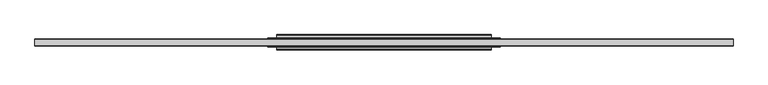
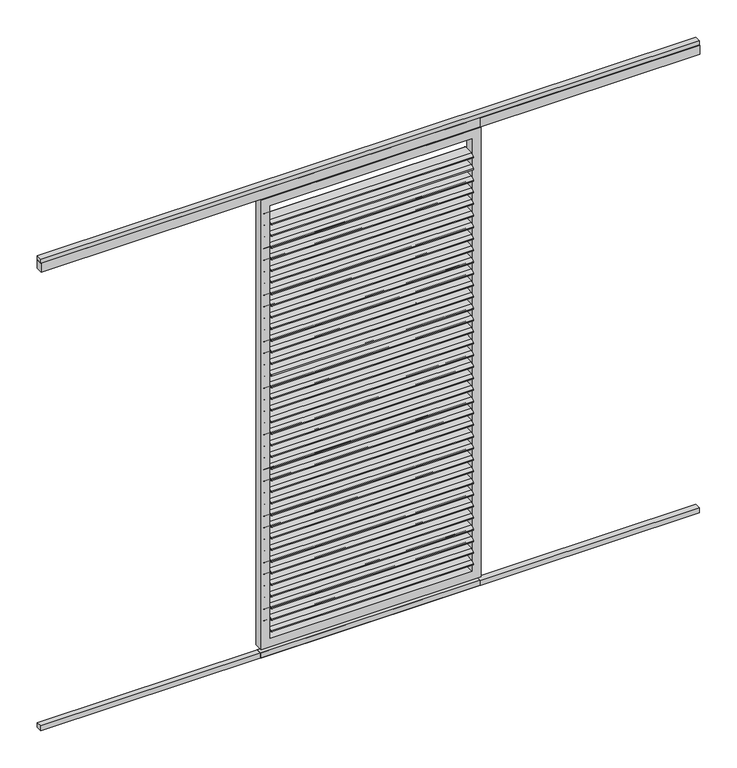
"""IFC4 building model written with IfcOpenShell, lengths in millimetres: proxy geometry, Renson_Algarve_Loggia_Paro_Privacy_Wood : Renson_Algarve_Loggia_Paro_Privacy_Wood."""

from ifc_helpers import new_model, si_unit, point, frame, frame_2d, origin, origin_with_axes, place, context, project, spatial, polyline, circle_curve, trimmed, segment, composite_curve, outline, extrude, source, transform, mapped, element, save


def generic_models_19c23343(model_context):
    return source(origin(), model_context, "Body", "SweptSolid", [
        extrude(outline(composite_curve([segment(trimmed(circle_curve(frame_2d((30.8660408, 2094.5594695)), 3.0), [point((30.8136836, 2097.5590126))], [point((32.5436195, 2092.0723568))], False, "CARTESIAN"), True, "CONTINUOUS"), segment(polyline([(32.5436195, 2092.0723568), (17.3218392, 2081.8051364)]), True, "CONTINUOUS"), segment(trimmed(circle_curve(frame_2d((15.6442605, 2084.2922491)), 3.0), [point((17.3218392, 2081.8051364))], [point((15.6966177, 2081.292706))], False, "CARTESIAN"), True, "CONTINUOUS"), segment(polyline([(15.6966177, 2081.292706), (-28.3625539, 2080.5236503)]), True, "CONTINUOUS"), segment(trimmed(circle_curve(frame_2d((-28.4149111, 2083.5231934)), 3.0), [point((-28.3625539, 2080.5236503))], [point((-30.0924898, 2086.0103061))], False, "CARTESIAN"), True, "CONTINUOUS"), segment(polyline([(-30.0924898, 2086.0103061), (-14.1339931, 2096.774448), (30.8136836, 2097.5590126)]), True, "CONTINUOUS")], self_intersect=False)), frame((-460.0, 0.0, 0.0), z_axis=(1.0, 0.0, 0.0), x_axis=(0.0, 1.0, 0.0)), (0.0, 0.0, 1.0), 920.0),
        extrude(outline(composite_curve([segment(trimmed(circle_curve(frame_2d((30.8660408, 2038.5874713)), 3.0), [point((30.8136836, 2041.5870144))], [point((32.5436195, 2036.1003586))], False, "CARTESIAN"), True, "CONTINUOUS"), segment(polyline([(32.5436195, 2036.1003586), (17.3218392, 2025.8331381)]), True, "CONTINUOUS"), segment(trimmed(circle_curve(frame_2d((15.6442605, 2028.3202508)), 3.0), [point((17.3218392, 2025.8331381))], [point((15.6966177, 2025.3207077))], False, "CARTESIAN"), True, "CONTINUOUS"), segment(polyline([(15.6966177, 2025.3207077), (-28.3625539, 2024.551652)]), True, "CONTINUOUS"), segment(trimmed(circle_curve(frame_2d((-28.4149111, 2027.5511951)), 3.0), [point((-28.3625539, 2024.551652))], [point((-30.0924898, 2030.0383078))], False, "CARTESIAN"), True, "CONTINUOUS"), segment(polyline([(-30.0924898, 2030.0383078), (-14.1339931, 2040.8024497), (30.8136836, 2041.5870144)]), True, "CONTINUOUS")], self_intersect=False)), frame((-460.0, 0.0, 0.0), z_axis=(1.0, 0.0, 0.0), x_axis=(0.0, 1.0, 0.0)), (0.0, 0.0, 1.0), 920.0),
        extrude(outline(composite_curve([segment(trimmed(circle_curve(frame_2d((30.8660408, 1982.615473)), 3.0), [point((30.8136836, 1985.6150161))], [point((32.5436195, 1980.1283603))], False, "CARTESIAN"), True, "CONTINUOUS"), segment(polyline([(32.5436195, 1980.1283603), (17.3218392, 1969.8611398)]), True, "CONTINUOUS"), segment(trimmed(circle_curve(frame_2d((15.6442605, 1972.3482526)), 3.0), [point((17.3218392, 1969.8611398))], [point((15.6966177, 1969.3487095))], False, "CARTESIAN"), True, "CONTINUOUS"), segment(polyline([(15.6966177, 1969.3487095), (-28.3625539, 1968.5796538)]), True, "CONTINUOUS"), segment(trimmed(circle_curve(frame_2d((-28.4149111, 1971.5791969)), 3.0), [point((-28.3625539, 1968.5796538))], [point((-30.0924898, 1974.0663096))], False, "CARTESIAN"), True, "CONTINUOUS"), segment(polyline([(-30.0924898, 1974.0663096), (-14.1339931, 1984.8304515), (30.8136836, 1985.6150161)]), True, "CONTINUOUS")], self_intersect=False)), frame((-460.0, 0.0, 0.0), z_axis=(1.0, 0.0, 0.0), x_axis=(0.0, 1.0, 0.0)), (0.0, 0.0, 1.0), 920.0),
        extrude(outline(composite_curve([segment(trimmed(circle_curve(frame_2d((30.8660408, 1926.6434747)), 3.0), [point((30.8136836, 1929.6430178))], [point((32.5436195, 1924.156362))], False, "CARTESIAN"), True, "CONTINUOUS"), segment(polyline([(32.5436195, 1924.156362), (17.3218392, 1913.8891416)]), True, "CONTINUOUS"), segment(trimmed(circle_curve(frame_2d((15.6442605, 1916.3762543)), 3.0), [point((17.3218392, 1913.8891416))], [point((15.6966177, 1913.3767112))], False, "CARTESIAN"), True, "CONTINUOUS"), segment(polyline([(15.6966177, 1913.3767112), (-28.3625539, 1912.6076555)]), True, "CONTINUOUS"), segment(trimmed(circle_curve(frame_2d((-28.4149111, 1915.6071986)), 3.0), [point((-28.3625539, 1912.6076555))], [point((-30.0924898, 1918.0943113))], False, "CARTESIAN"), True, "CONTINUOUS"), segment(polyline([(-30.0924898, 1918.0943113), (-14.1339931, 1928.8584532), (30.8136836, 1929.6430178)]), True, "CONTINUOUS")], self_intersect=False)), frame((-460.0, 0.0, 0.0), z_axis=(1.0, 0.0, 0.0), x_axis=(0.0, 1.0, 0.0)), (0.0, 0.0, 1.0), 920.0),
        extrude(outline(composite_curve([segment(trimmed(circle_curve(frame_2d((30.8660408, 1870.6714765)), 3.0), [point((30.8136836, 1873.6710196))], [point((32.5436195, 1868.1843638))], False, "CARTESIAN"), True, "CONTINUOUS"), segment(polyline([(32.5436195, 1868.1843638), (17.3218392, 1857.9171433)]), True, "CONTINUOUS"), segment(trimmed(circle_curve(frame_2d((15.6442605, 1860.404256)), 3.0), [point((17.3218392, 1857.9171433))], [point((15.6966177, 1857.404713))], False, "CARTESIAN"), True, "CONTINUOUS"), segment(polyline([(15.6966177, 1857.404713), (-28.3625539, 1856.6356573)]), True, "CONTINUOUS"), segment(trimmed(circle_curve(frame_2d((-28.4149111, 1859.6352003)), 3.0), [point((-28.3625539, 1856.6356573))], [point((-30.0924898, 1862.1223131))], False, "CARTESIAN"), True, "CONTINUOUS"), segment(polyline([(-30.0924898, 1862.1223131), (-14.1339931, 1872.886455), (30.8136836, 1873.6710196)]), True, "CONTINUOUS")], self_intersect=False)), frame((-460.0, 0.0, 0.0), z_axis=(1.0, 0.0, 0.0), x_axis=(0.0, 1.0, 0.0)), (0.0, 0.0, 1.0), 920.0),
        extrude(outline(composite_curve([segment(trimmed(circle_curve(frame_2d((30.8660408, 1814.6994782)), 3.0), [point((30.8136836, 1817.6990213))], [point((32.5436195, 1812.2123655))], False, "CARTESIAN"), True, "CONTINUOUS"), segment(polyline([(32.5436195, 1812.2123655), (17.3218392, 1801.9451451)]), True, "CONTINUOUS"), segment(trimmed(circle_curve(frame_2d((15.6442605, 1804.4322578)), 3.0), [point((17.3218392, 1801.9451451))], [point((15.6966177, 1801.4327147))], False, "CARTESIAN"), True, "CONTINUOUS"), segment(polyline([(15.6966177, 1801.4327147), (-28.3625539, 1800.663659)]), True, "CONTINUOUS"), segment(trimmed(circle_curve(frame_2d((-28.4149111, 1803.6632021)), 3.0), [point((-28.3625539, 1800.663659))], [point((-30.0924898, 1806.1503148))], False, "CARTESIAN"), True, "CONTINUOUS"), segment(polyline([(-30.0924898, 1806.1503148), (-14.1339931, 1816.9144567), (30.8136836, 1817.6990213)]), True, "CONTINUOUS")], self_intersect=False)), frame((-460.0, 0.0, 0.0), z_axis=(1.0, 0.0, 0.0), x_axis=(0.0, 1.0, 0.0)), (0.0, 0.0, 1.0), 920.0),
        extrude(outline(composite_curve([segment(trimmed(circle_curve(frame_2d((30.8660408, 1758.72748)), 3.0), [point((30.8136836, 1761.727023))], [point((32.5436195, 1756.2403672))], False, "CARTESIAN"), True, "CONTINUOUS"), segment(polyline([(32.5436195, 1756.2403672), (17.3218392, 1745.9731468)]), True, "CONTINUOUS"), segment(trimmed(circle_curve(frame_2d((15.6442605, 1748.4602595)), 3.0), [point((17.3218392, 1745.9731468))], [point((15.6966177, 1745.4607164))], False, "CARTESIAN"), True, "CONTINUOUS"), segment(polyline([(15.6966177, 1745.4607164), (-28.3625539, 1744.6916607)]), True, "CONTINUOUS"), segment(trimmed(circle_curve(frame_2d((-28.4149111, 1747.6912038)), 3.0), [point((-28.3625539, 1744.6916607))], [point((-30.0924898, 1750.1783165))], False, "CARTESIAN"), True, "CONTINUOUS"), segment(polyline([(-30.0924898, 1750.1783165), (-14.1339931, 1760.9424584), (30.8136836, 1761.727023)]), True, "CONTINUOUS")], self_intersect=False)), frame((-460.0, 0.0, 0.0), z_axis=(1.0, 0.0, 0.0), x_axis=(0.0, 1.0, 0.0)), (0.0, 0.0, 1.0), 920.0),
        extrude(outline(composite_curve([segment(trimmed(circle_curve(frame_2d((30.8660408, 1702.7554817)), 3.0), [point((30.8136836, 1705.7550248))], [point((32.5436195, 1700.268369))], False, "CARTESIAN"), True, "CONTINUOUS"), segment(polyline([(32.5436195, 1700.268369), (17.3218392, 1690.0011485)]), True, "CONTINUOUS"), segment(trimmed(circle_curve(frame_2d((15.6442605, 1692.4882613)), 3.0), [point((17.3218392, 1690.0011485))], [point((15.6966177, 1689.4887182))], False, "CARTESIAN"), True, "CONTINUOUS"), segment(polyline([(15.6966177, 1689.4887182), (-28.3625539, 1688.7196625)]), True, "CONTINUOUS"), segment(trimmed(circle_curve(frame_2d((-28.4149111, 1691.7192056)), 3.0), [point((-28.3625539, 1688.7196625))], [point((-30.0924898, 1694.2063183))], False, "CARTESIAN"), True, "CONTINUOUS"), segment(polyline([(-30.0924898, 1694.2063183), (-14.1339931, 1704.9704602), (30.8136836, 1705.7550248)]), True, "CONTINUOUS")], self_intersect=False)), frame((-460.0, 0.0, 0.0), z_axis=(1.0, 0.0, 0.0), x_axis=(0.0, 1.0, 0.0)), (0.0, 0.0, 1.0), 920.0),
        extrude(outline(composite_curve([segment(trimmed(circle_curve(frame_2d((30.8660408, 1646.7834834)), 3.0), [point((30.8136836, 1649.7830265))], [point((32.5436195, 1644.2963707))], False, "CARTESIAN"), True, "CONTINUOUS"), segment(polyline([(32.5436195, 1644.2963707), (17.3218392, 1634.0291503)]), True, "CONTINUOUS"), segment(trimmed(circle_curve(frame_2d((15.6442605, 1636.516263)), 3.0), [point((17.3218392, 1634.0291503))], [point((15.6966177, 1633.5167199))], False, "CARTESIAN"), True, "CONTINUOUS"), segment(polyline([(15.6966177, 1633.5167199), (-28.3625539, 1632.7476642)]), True, "CONTINUOUS"), segment(trimmed(circle_curve(frame_2d((-28.4149111, 1635.7472073)), 3.0), [point((-28.3625539, 1632.7476642))], [point((-30.0924898, 1638.23432))], False, "CARTESIAN"), True, "CONTINUOUS"), segment(polyline([(-30.0924898, 1638.23432), (-14.1339931, 1648.9984619), (30.8136836, 1649.7830265)]), True, "CONTINUOUS")], self_intersect=False)), frame((-460.0, 0.0, 0.0), z_axis=(1.0, 0.0, 0.0), x_axis=(0.0, 1.0, 0.0)), (0.0, 0.0, 1.0), 920.0),
        extrude(outline(composite_curve([segment(trimmed(circle_curve(frame_2d((30.8660408, 1590.8114852)), 3.0), [point((30.8136836, 1593.8110283))], [point((32.5436195, 1588.3243725))], False, "CARTESIAN"), True, "CONTINUOUS"), segment(polyline([(32.5436195, 1588.3243725), (17.3218392, 1578.057152)]), True, "CONTINUOUS"), segment(trimmed(circle_curve(frame_2d((15.6442605, 1580.5442647)), 3.0), [point((17.3218392, 1578.057152))], [point((15.6966177, 1577.5447216))], False, "CARTESIAN"), True, "CONTINUOUS"), segment(polyline([(15.6966177, 1577.5447216), (-28.3625539, 1576.7756659)]), True, "CONTINUOUS"), segment(trimmed(circle_curve(frame_2d((-28.4149111, 1579.775209)), 3.0), [point((-28.3625539, 1576.7756659))], [point((-30.0924898, 1582.2623218))], False, "CARTESIAN"), True, "CONTINUOUS"), segment(polyline([(-30.0924898, 1582.2623218), (-14.1339931, 1593.0264636), (30.8136836, 1593.8110283)]), True, "CONTINUOUS")], self_intersect=False)), frame((-460.0, 0.0, 0.0), z_axis=(1.0, 0.0, 0.0), x_axis=(0.0, 1.0, 0.0)), (0.0, 0.0, 1.0), 920.0),
        extrude(outline(composite_curve([segment(trimmed(circle_curve(frame_2d((30.8660408, 1534.8394869)), 3.0), [point((30.8136836, 1537.83903))], [point((32.5436195, 1532.3523742))], False, "CARTESIAN"), True, "CONTINUOUS"), segment(polyline([(32.5436195, 1532.3523742), (17.3218392, 1522.0851538)]), True, "CONTINUOUS"), segment(trimmed(circle_curve(frame_2d((15.6442605, 1524.5722665)), 3.0), [point((17.3218392, 1522.0851538))], [point((15.6966177, 1521.5727234))], False, "CARTESIAN"), True, "CONTINUOUS"), segment(polyline([(15.6966177, 1521.5727234), (-28.3625539, 1520.8036677)]), True, "CONTINUOUS"), segment(trimmed(circle_curve(frame_2d((-28.4149111, 1523.8032108)), 3.0), [point((-28.3625539, 1520.8036677))], [point((-30.0924898, 1526.2903235))], False, "CARTESIAN"), True, "CONTINUOUS"), segment(polyline([(-30.0924898, 1526.2903235), (-14.1339931, 1537.0544654), (30.8136836, 1537.83903)]), True, "CONTINUOUS")], self_intersect=False)), frame((-460.0, 0.0, 0.0), z_axis=(1.0, 0.0, 0.0), x_axis=(0.0, 1.0, 0.0)), (0.0, 0.0, 1.0), 920.0),
        extrude(outline(composite_curve([segment(trimmed(circle_curve(frame_2d((30.8660408, 1478.8674887)), 3.0), [point((30.8136836, 1481.8670317))], [point((32.5436195, 1476.3803759))], False, "CARTESIAN"), True, "CONTINUOUS"), segment(polyline([(32.5436195, 1476.3803759), (17.3218392, 1466.1131555)]), True, "CONTINUOUS"), segment(trimmed(circle_curve(frame_2d((15.6442605, 1468.6002682)), 3.0), [point((17.3218392, 1466.1131555))], [point((15.6966177, 1465.6007251))], False, "CARTESIAN"), True, "CONTINUOUS"), segment(polyline([(15.6966177, 1465.6007251), (-28.3625539, 1464.8316694)]), True, "CONTINUOUS"), segment(trimmed(circle_curve(frame_2d((-28.4149111, 1467.8312125)), 3.0), [point((-28.3625539, 1464.8316694))], [point((-30.0924898, 1470.3183252))], False, "CARTESIAN"), True, "CONTINUOUS"), segment(polyline([(-30.0924898, 1470.3183252), (-14.1339931, 1481.0824671), (30.8136836, 1481.8670317)]), True, "CONTINUOUS")], self_intersect=False)), frame((-460.0, 0.0, 0.0), z_axis=(1.0, 0.0, 0.0), x_axis=(0.0, 1.0, 0.0)), (0.0, 0.0, 1.0), 920.0),
        extrude(outline(composite_curve([segment(trimmed(circle_curve(frame_2d((30.8660408, 1422.8954904)), 3.0), [point((30.8136836, 1425.8950335))], [point((32.5436195, 1420.4083777))], False, "CARTESIAN"), True, "CONTINUOUS"), segment(polyline([(32.5436195, 1420.4083777), (17.3218392, 1410.1411572)]), True, "CONTINUOUS"), segment(trimmed(circle_curve(frame_2d((15.6442605, 1412.62827)), 3.0), [point((17.3218392, 1410.1411572))], [point((15.6966177, 1409.6287269))], False, "CARTESIAN"), True, "CONTINUOUS"), segment(polyline([(15.6966177, 1409.6287269), (-28.3625539, 1408.8596712)]), True, "CONTINUOUS"), segment(trimmed(circle_curve(frame_2d((-28.4149111, 1411.8592143)), 3.0), [point((-28.3625539, 1408.8596712))], [point((-30.0924898, 1414.346327))], False, "CARTESIAN"), True, "CONTINUOUS"), segment(polyline([(-30.0924898, 1414.346327), (-14.1339931, 1425.1104689), (30.8136836, 1425.8950335)]), True, "CONTINUOUS")], self_intersect=False)), frame((-460.0, 0.0, 0.0), z_axis=(1.0, 0.0, 0.0), x_axis=(0.0, 1.0, 0.0)), (0.0, 0.0, 1.0), 920.0),
        extrude(outline(composite_curve([segment(trimmed(circle_curve(frame_2d((30.8660408, 1366.9234921)), 3.0), [point((30.8136836, 1369.9230352))], [point((32.5436195, 1364.4363794))], False, "CARTESIAN"), True, "CONTINUOUS"), segment(polyline([(32.5436195, 1364.4363794), (17.3218392, 1354.169159)]), True, "CONTINUOUS"), segment(trimmed(circle_curve(frame_2d((15.6442605, 1356.6562717)), 3.0), [point((17.3218392, 1354.169159))], [point((15.6966177, 1353.6567286))], False, "CARTESIAN"), True, "CONTINUOUS"), segment(polyline([(15.6966177, 1353.6567286), (-28.3625539, 1352.8876729)]), True, "CONTINUOUS"), segment(trimmed(circle_curve(frame_2d((-28.4149111, 1355.887216)), 3.0), [point((-28.3625539, 1352.8876729))], [point((-30.0924898, 1358.3743287))], False, "CARTESIAN"), True, "CONTINUOUS"), segment(polyline([(-30.0924898, 1358.3743287), (-14.1339931, 1369.1384706), (30.8136836, 1369.9230352)]), True, "CONTINUOUS")], self_intersect=False)), frame((-460.0, 0.0, 0.0), z_axis=(1.0, 0.0, 0.0), x_axis=(0.0, 1.0, 0.0)), (0.0, 0.0, 1.0), 920.0),
        extrude(outline(composite_curve([segment(trimmed(circle_curve(frame_2d((30.8660408, 1310.9514939)), 3.0), [point((30.8136836, 1313.951037))], [point((32.5436195, 1308.4643812))], False, "CARTESIAN"), True, "CONTINUOUS"), segment(polyline([(32.5436195, 1308.4643812), (17.3218392, 1298.1971607)]), True, "CONTINUOUS"), segment(trimmed(circle_curve(frame_2d((15.6442605, 1300.6842734)), 3.0), [point((17.3218392, 1298.1971607))], [point((15.6966177, 1297.6847303))], False, "CARTESIAN"), True, "CONTINUOUS"), segment(polyline([(15.6966177, 1297.6847303), (-28.3625539, 1296.9156746)]), True, "CONTINUOUS"), segment(trimmed(circle_curve(frame_2d((-28.4149111, 1299.9152177)), 3.0), [point((-28.3625539, 1296.9156746))], [point((-30.0924898, 1302.4023304))], False, "CARTESIAN"), True, "CONTINUOUS"), segment(polyline([(-30.0924898, 1302.4023304), (-14.1339931, 1313.1664723), (30.8136836, 1313.951037)]), True, "CONTINUOUS")], self_intersect=False)), frame((-460.0, 0.0, 0.0), z_axis=(1.0, 0.0, 0.0), x_axis=(0.0, 1.0, 0.0)), (0.0, 0.0, 1.0), 920.0),
        extrude(outline(composite_curve([segment(trimmed(circle_curve(frame_2d((30.8660408, 1254.9794956)), 3.0), [point((30.8136836, 1257.9790387))], [point((32.5436195, 1252.4923829))], False, "CARTESIAN"), True, "CONTINUOUS"), segment(polyline([(32.5436195, 1252.4923829), (17.3218392, 1242.2251625)]), True, "CONTINUOUS"), segment(trimmed(circle_curve(frame_2d((15.6442605, 1244.7122752)), 3.0), [point((17.3218392, 1242.2251625))], [point((15.6966177, 1241.7127321))], False, "CARTESIAN"), True, "CONTINUOUS"), segment(polyline([(15.6966177, 1241.7127321), (-28.3625539, 1240.9436764)]), True, "CONTINUOUS"), segment(trimmed(circle_curve(frame_2d((-28.4149111, 1243.9432195)), 3.0), [point((-28.3625539, 1240.9436764))], [point((-30.0924898, 1246.4303322))], False, "CARTESIAN"), True, "CONTINUOUS"), segment(polyline([(-30.0924898, 1246.4303322), (-14.1339931, 1257.1944741), (30.8136836, 1257.9790387)]), True, "CONTINUOUS")], self_intersect=False)), frame((-460.0, 0.0, 0.0), z_axis=(1.0, 0.0, 0.0), x_axis=(0.0, 1.0, 0.0)), (0.0, 0.0, 1.0), 920.0),
        extrude(outline(composite_curve([segment(trimmed(circle_curve(frame_2d((30.8660408, 1199.0074974)), 3.0), [point((30.8136836, 1202.0070404))], [point((32.5436195, 1196.5203846))], False, "CARTESIAN"), True, "CONTINUOUS"), segment(polyline([(32.5436195, 1196.5203846), (17.3218392, 1186.2531642)]), True, "CONTINUOUS"), segment(trimmed(circle_curve(frame_2d((15.6442605, 1188.7402769)), 3.0), [point((17.3218392, 1186.2531642))], [point((15.6966177, 1185.7407338))], False, "CARTESIAN"), True, "CONTINUOUS"), segment(polyline([(15.6966177, 1185.7407338), (-28.3625539, 1184.9716781)]), True, "CONTINUOUS"), segment(trimmed(circle_curve(frame_2d((-28.4149111, 1187.9712212)), 3.0), [point((-28.3625539, 1184.9716781))], [point((-30.0924898, 1190.4583339))], False, "CARTESIAN"), True, "CONTINUOUS"), segment(polyline([(-30.0924898, 1190.4583339), (-14.1339931, 1201.2224758), (30.8136836, 1202.0070404)]), True, "CONTINUOUS")], self_intersect=False)), frame((-460.0, 0.0, 0.0), z_axis=(1.0, 0.0, 0.0), x_axis=(0.0, 1.0, 0.0)), (0.0, 0.0, 1.0), 920.0),
        extrude(outline(composite_curve([segment(trimmed(circle_curve(frame_2d((30.8660408, 1143.0354991)), 3.0), [point((30.8136836, 1146.0350422))], [point((32.5436195, 1140.5483864))], False, "CARTESIAN"), True, "CONTINUOUS"), segment(polyline([(32.5436195, 1140.5483864), (17.3218392, 1130.2811659)]), True, "CONTINUOUS"), segment(trimmed(circle_curve(frame_2d((15.6442605, 1132.7682786)), 3.0), [point((17.3218392, 1130.2811659))], [point((15.6966177, 1129.7687356))], False, "CARTESIAN"), True, "CONTINUOUS"), segment(polyline([(15.6966177, 1129.7687356), (-28.3625539, 1128.9996799)]), True, "CONTINUOUS"), segment(trimmed(circle_curve(frame_2d((-28.4149111, 1131.9992229)), 3.0), [point((-28.3625539, 1128.9996799))], [point((-30.0924898, 1134.4863357))], False, "CARTESIAN"), True, "CONTINUOUS"), segment(polyline([(-30.0924898, 1134.4863357), (-14.1339931, 1145.2504776), (30.8136836, 1146.0350422)]), True, "CONTINUOUS")], self_intersect=False)), frame((-460.0, 0.0, 0.0), z_axis=(1.0, 0.0, 0.0), x_axis=(0.0, 1.0, 0.0)), (0.0, 0.0, 1.0), 920.0),
        extrude(outline(composite_curve([segment(trimmed(circle_curve(frame_2d((30.8660408, 1087.0635008)), 3.0), [point((30.8136836, 1090.0630439))], [point((32.5436195, 1084.5763881))], False, "CARTESIAN"), True, "CONTINUOUS"), segment(polyline([(32.5436195, 1084.5763881), (17.3218392, 1074.3091677)]), True, "CONTINUOUS"), segment(trimmed(circle_curve(frame_2d((15.6442605, 1076.7962804)), 3.0), [point((17.3218392, 1074.3091677))], [point((15.6966177, 1073.7967373))], False, "CARTESIAN"), True, "CONTINUOUS"), segment(polyline([(15.6966177, 1073.7967373), (-28.3625539, 1073.0276816)]), True, "CONTINUOUS"), segment(trimmed(circle_curve(frame_2d((-28.4149111, 1076.0272247)), 3.0), [point((-28.3625539, 1073.0276816))], [point((-30.0924898, 1078.5143374))], False, "CARTESIAN"), True, "CONTINUOUS"), segment(polyline([(-30.0924898, 1078.5143374), (-14.1339931, 1089.2784793), (30.8136836, 1090.0630439)]), True, "CONTINUOUS")], self_intersect=False)), frame((-460.0, 0.0, 0.0), z_axis=(1.0, 0.0, 0.0), x_axis=(0.0, 1.0, 0.0)), (0.0, 0.0, 1.0), 920.0),
        extrude(outline(composite_curve([segment(trimmed(circle_curve(frame_2d((30.8660408, 1031.0915026)), 3.0), [point((30.8136836, 1034.0910457))], [point((32.5436195, 1028.6043898))], False, "CARTESIAN"), True, "CONTINUOUS"), segment(polyline([(32.5436195, 1028.6043898), (17.3218392, 1018.3371694)]), True, "CONTINUOUS"), segment(trimmed(circle_curve(frame_2d((15.6442605, 1020.8242821)), 3.0), [point((17.3218392, 1018.3371694))], [point((15.6966177, 1017.824739))], False, "CARTESIAN"), True, "CONTINUOUS"), segment(polyline([(15.6966177, 1017.824739), (-28.3625539, 1017.0556833)]), True, "CONTINUOUS"), segment(trimmed(circle_curve(frame_2d((-28.4149111, 1020.0552264)), 3.0), [point((-28.3625539, 1017.0556833))], [point((-30.0924898, 1022.5423391))], False, "CARTESIAN"), True, "CONTINUOUS"), segment(polyline([(-30.0924898, 1022.5423391), (-14.1339931, 1033.306481), (30.8136836, 1034.0910457)]), True, "CONTINUOUS")], self_intersect=False)), frame((-460.0, 0.0, 0.0), z_axis=(1.0, 0.0, 0.0), x_axis=(0.0, 1.0, 0.0)), (0.0, 0.0, 1.0), 920.0),
        extrude(outline(composite_curve([segment(trimmed(circle_curve(frame_2d((30.8660408, 975.1195043)), 3.0), [point((30.8136836, 978.1190474))], [point((32.5436195, 972.6323916))], False, "CARTESIAN"), True, "CONTINUOUS"), segment(polyline([(32.5436195, 972.6323916), (17.3218392, 962.3651711)]), True, "CONTINUOUS"), segment(trimmed(circle_curve(frame_2d((15.6442605, 964.8522839)), 3.0), [point((17.3218392, 962.3651711))], [point((15.6966177, 961.8527408))], False, "CARTESIAN"), True, "CONTINUOUS"), segment(polyline([(15.6966177, 961.8527408), (-28.3625539, 961.0836851)]), True, "CONTINUOUS"), segment(trimmed(circle_curve(frame_2d((-28.4149111, 964.0832282)), 3.0), [point((-28.3625539, 961.0836851))], [point((-30.0924898, 966.5703409))], False, "CARTESIAN"), True, "CONTINUOUS"), segment(polyline([(-30.0924898, 966.5703409), (-14.1339931, 977.3344828), (30.8136836, 978.1190474)]), True, "CONTINUOUS")], self_intersect=False)), frame((-460.0, 0.0, 0.0), z_axis=(1.0, 0.0, 0.0), x_axis=(0.0, 1.0, 0.0)), (0.0, 0.0, 1.0), 920.0),
        extrude(outline(composite_curve([segment(trimmed(circle_curve(frame_2d((30.8660408, 919.147506)), 3.0), [point((30.8136836, 922.1470491))], [point((32.5436195, 916.6603933))], False, "CARTESIAN"), True, "CONTINUOUS"), segment(polyline([(32.5436195, 916.6603933), (17.3218392, 906.3931729)]), True, "CONTINUOUS"), segment(trimmed(circle_curve(frame_2d((15.6442605, 908.8802856)), 3.0), [point((17.3218392, 906.3931729))], [point((15.6966177, 905.8807425))], False, "CARTESIAN"), True, "CONTINUOUS"), segment(polyline([(15.6966177, 905.8807425), (-28.3625539, 905.1116868)]), True, "CONTINUOUS"), segment(trimmed(circle_curve(frame_2d((-28.4149111, 908.1112299)), 3.0), [point((-28.3625539, 905.1116868))], [point((-30.0924898, 910.5983426))], False, "CARTESIAN"), True, "CONTINUOUS"), segment(polyline([(-30.0924898, 910.5983426), (-14.1339931, 921.3624845), (30.8136836, 922.1470491)]), True, "CONTINUOUS")], self_intersect=False)), frame((-460.0, 0.0, 0.0), z_axis=(1.0, 0.0, 0.0), x_axis=(0.0, 1.0, 0.0)), (0.0, 0.0, 1.0), 920.0),
        extrude(outline(composite_curve([segment(trimmed(circle_curve(frame_2d((30.8660408, 863.1755078)), 3.0), [point((30.8136836, 866.1750509))], [point((32.5436195, 860.6883951))], False, "CARTESIAN"), True, "CONTINUOUS"), segment(polyline([(32.5436195, 860.6883951), (17.3218392, 850.4211746)]), True, "CONTINUOUS"), segment(trimmed(circle_curve(frame_2d((15.6442605, 852.9082873)), 3.0), [point((17.3218392, 850.4211746))], [point((15.6966177, 849.9087443))], False, "CARTESIAN"), True, "CONTINUOUS"), segment(polyline([(15.6966177, 849.9087443), (-28.3625539, 849.1396886)]), True, "CONTINUOUS"), segment(trimmed(circle_curve(frame_2d((-28.4149111, 852.1392316)), 3.0), [point((-28.3625539, 849.1396886))], [point((-30.0924898, 854.6263444))], False, "CARTESIAN"), True, "CONTINUOUS"), segment(polyline([(-30.0924898, 854.6263444), (-14.1339931, 865.3904863), (30.8136836, 866.1750509)]), True, "CONTINUOUS")], self_intersect=False)), frame((-460.0, 0.0, 0.0), z_axis=(1.0, 0.0, 0.0), x_axis=(0.0, 1.0, 0.0)), (0.0, 0.0, 1.0), 920.0),
        extrude(outline(composite_curve([segment(trimmed(circle_curve(frame_2d((30.8660408, 807.2035095)), 3.0), [point((30.8136836, 810.2030526))], [point((32.5436195, 804.7163968))], False, "CARTESIAN"), True, "CONTINUOUS"), segment(polyline([(32.5436195, 804.7163968), (17.3218392, 794.4491764)]), True, "CONTINUOUS"), segment(trimmed(circle_curve(frame_2d((15.6442605, 796.9362891)), 3.0), [point((17.3218392, 794.4491764))], [point((15.6966177, 793.936746))], False, "CARTESIAN"), True, "CONTINUOUS"), segment(polyline([(15.6966177, 793.936746), (-28.3625539, 793.1676903)]), True, "CONTINUOUS"), segment(trimmed(circle_curve(frame_2d((-28.4149111, 796.1672334)), 3.0), [point((-28.3625539, 793.1676903))], [point((-30.0924898, 798.6543461))], False, "CARTESIAN"), True, "CONTINUOUS"), segment(polyline([(-30.0924898, 798.6543461), (-14.1339931, 809.418488), (30.8136836, 810.2030526)]), True, "CONTINUOUS")], self_intersect=False)), frame((-460.0, 0.0, 0.0), z_axis=(1.0, 0.0, 0.0), x_axis=(0.0, 1.0, 0.0)), (0.0, 0.0, 1.0), 920.0),
        extrude(outline(composite_curve([segment(trimmed(circle_curve(frame_2d((30.8660408, 751.2315113)), 3.0), [point((30.8136836, 754.2310543))], [point((32.5436195, 748.7443985))], False, "CARTESIAN"), True, "CONTINUOUS"), segment(polyline([(32.5436195, 748.7443985), (17.3218392, 738.4771781)]), True, "CONTINUOUS"), segment(trimmed(circle_curve(frame_2d((15.6442605, 740.9642908)), 3.0), [point((17.3218392, 738.4771781))], [point((15.6966177, 737.9647477))], False, "CARTESIAN"), True, "CONTINUOUS"), segment(polyline([(15.6966177, 737.9647477), (-28.3625539, 737.195692)]), True, "CONTINUOUS"), segment(trimmed(circle_curve(frame_2d((-28.4149111, 740.1952351)), 3.0), [point((-28.3625539, 737.195692))], [point((-30.0924898, 742.6823478))], False, "CARTESIAN"), True, "CONTINUOUS"), segment(polyline([(-30.0924898, 742.6823478), (-14.1339931, 753.4464897), (30.8136836, 754.2310543)]), True, "CONTINUOUS")], self_intersect=False)), frame((-460.0, 0.0, 0.0), z_axis=(1.0, 0.0, 0.0), x_axis=(0.0, 1.0, 0.0)), (0.0, 0.0, 1.0), 920.0),
        extrude(outline(composite_curve([segment(trimmed(circle_curve(frame_2d((30.8660408, 695.259513)), 3.0), [point((30.8136836, 698.2590561))], [point((32.5436195, 692.7724003))], False, "CARTESIAN"), True, "CONTINUOUS"), segment(polyline([(32.5436195, 692.7724003), (17.3218392, 682.5051798)]), True, "CONTINUOUS"), segment(trimmed(circle_curve(frame_2d((15.6442605, 684.9922926)), 3.0), [point((17.3218392, 682.5051798))], [point((15.6966177, 681.9927495))], False, "CARTESIAN"), True, "CONTINUOUS"), segment(polyline([(15.6966177, 681.9927495), (-28.3625539, 681.2236938)]), True, "CONTINUOUS"), segment(trimmed(circle_curve(frame_2d((-28.4149111, 684.2232369)), 3.0), [point((-28.3625539, 681.2236938))], [point((-30.0924898, 686.7103496))], False, "CARTESIAN"), True, "CONTINUOUS"), segment(polyline([(-30.0924898, 686.7103496), (-14.1339931, 697.4744915), (30.8136836, 698.2590561)]), True, "CONTINUOUS")], self_intersect=False)), frame((-460.0, 0.0, 0.0), z_axis=(1.0, 0.0, 0.0), x_axis=(0.0, 1.0, 0.0)), (0.0, 0.0, 1.0), 920.0),
        extrude(outline(composite_curve([segment(trimmed(circle_curve(frame_2d((30.8660408, 639.2875147)), 3.0), [point((30.8136836, 642.2870578))], [point((32.5436195, 636.800402))], False, "CARTESIAN"), True, "CONTINUOUS"), segment(polyline([(32.5436195, 636.800402), (17.3218392, 626.5331816)]), True, "CONTINUOUS"), segment(trimmed(circle_curve(frame_2d((15.6442605, 629.0202943)), 3.0), [point((17.3218392, 626.5331816))], [point((15.6966177, 626.0207512))], False, "CARTESIAN"), True, "CONTINUOUS"), segment(polyline([(15.6966177, 626.0207512), (-28.3625539, 625.2516955)]), True, "CONTINUOUS"), segment(trimmed(circle_curve(frame_2d((-28.4149111, 628.2512386)), 3.0), [point((-28.3625539, 625.2516955))], [point((-30.0924898, 630.7383513))], False, "CARTESIAN"), True, "CONTINUOUS"), segment(polyline([(-30.0924898, 630.7383513), (-14.1339931, 641.5024932), (30.8136836, 642.2870578)]), True, "CONTINUOUS")], self_intersect=False)), frame((-460.0, 0.0, 0.0), z_axis=(1.0, 0.0, 0.0), x_axis=(0.0, 1.0, 0.0)), (0.0, 0.0, 1.0), 920.0),
        extrude(outline(composite_curve([segment(trimmed(circle_curve(frame_2d((30.8660408, 583.3155165)), 3.0), [point((30.8136836, 586.3150596))], [point((32.5436195, 580.8284038))], False, "CARTESIAN"), True, "CONTINUOUS"), segment(polyline([(32.5436195, 580.8284038), (17.3218392, 570.5611833)]), True, "CONTINUOUS"), segment(trimmed(circle_curve(frame_2d((15.6442605, 573.048296)), 3.0), [point((17.3218392, 570.5611833))], [point((15.6966177, 570.0487529))], False, "CARTESIAN"), True, "CONTINUOUS"), segment(polyline([(15.6966177, 570.0487529), (-28.3625539, 569.2796972)]), True, "CONTINUOUS"), segment(trimmed(circle_curve(frame_2d((-28.4149111, 572.2792403)), 3.0), [point((-28.3625539, 569.2796972))], [point((-30.0924898, 574.766353))], False, "CARTESIAN"), True, "CONTINUOUS"), segment(polyline([(-30.0924898, 574.766353), (-14.1339931, 585.5304949), (30.8136836, 586.3150596)]), True, "CONTINUOUS")], self_intersect=False)), frame((-460.0, 0.0, 0.0), z_axis=(1.0, 0.0, 0.0), x_axis=(0.0, 1.0, 0.0)), (0.0, 0.0, 1.0), 920.0),
        extrude(outline(composite_curve([segment(trimmed(circle_curve(frame_2d((30.8660408, 527.3435182)), 3.0), [point((30.8136836, 530.3430613))], [point((32.5436195, 524.8564055))], False, "CARTESIAN"), True, "CONTINUOUS"), segment(polyline([(32.5436195, 524.8564055), (17.3218392, 514.5891851)]), True, "CONTINUOUS"), segment(trimmed(circle_curve(frame_2d((15.6442605, 517.0762978)), 3.0), [point((17.3218392, 514.5891851))], [point((15.6966177, 514.0767547))], False, "CARTESIAN"), True, "CONTINUOUS"), segment(polyline([(15.6966177, 514.0767547), (-28.3625539, 513.307699)]), True, "CONTINUOUS"), segment(trimmed(circle_curve(frame_2d((-28.4149111, 516.3072421)), 3.0), [point((-28.3625539, 513.307699))], [point((-30.0924898, 518.7943548))], False, "CARTESIAN"), True, "CONTINUOUS"), segment(polyline([(-30.0924898, 518.7943548), (-14.1339931, 529.5584967), (30.8136836, 530.3430613)]), True, "CONTINUOUS")], self_intersect=False)), frame((-460.0, 0.0, 0.0), z_axis=(1.0, 0.0, 0.0), x_axis=(0.0, 1.0, 0.0)), (0.0, 0.0, 1.0), 920.0),
        extrude(outline(composite_curve([segment(trimmed(circle_curve(frame_2d((30.8660408, 471.37152)), 3.0), [point((30.8136836, 474.371063))], [point((32.5436195, 468.8844072))], False, "CARTESIAN"), True, "CONTINUOUS"), segment(polyline([(32.5436195, 468.8844072), (17.3218392, 458.6171868)]), True, "CONTINUOUS"), segment(trimmed(circle_curve(frame_2d((15.6442605, 461.1042995)), 3.0), [point((17.3218392, 458.6171868))], [point((15.6966177, 458.1047564))], False, "CARTESIAN"), True, "CONTINUOUS"), segment(polyline([(15.6966177, 458.1047564), (-28.3625539, 457.3357007)]), True, "CONTINUOUS"), segment(trimmed(circle_curve(frame_2d((-28.4149111, 460.3352438)), 3.0), [point((-28.3625539, 457.3357007))], [point((-30.0924898, 462.8223565))], False, "CARTESIAN"), True, "CONTINUOUS"), segment(polyline([(-30.0924898, 462.8223565), (-14.1339931, 473.5864984), (30.8136836, 474.371063)]), True, "CONTINUOUS")], self_intersect=False)), frame((-460.0, 0.0, 0.0), z_axis=(1.0, 0.0, 0.0), x_axis=(0.0, 1.0, 0.0)), (0.0, 0.0, 1.0), 920.0),
        extrude(outline(composite_curve([segment(trimmed(circle_curve(frame_2d((30.8660408, 415.3995217)), 3.0), [point((30.8136836, 418.3990648))], [point((32.5436195, 412.912409))], False, "CARTESIAN"), True, "CONTINUOUS"), segment(polyline([(32.5436195, 412.912409), (17.3218392, 402.6451885)]), True, "CONTINUOUS"), segment(trimmed(circle_curve(frame_2d((15.6442605, 405.1323012)), 3.0), [point((17.3218392, 402.6451885))], [point((15.6966177, 402.1327582))], False, "CARTESIAN"), True, "CONTINUOUS"), segment(polyline([(15.6966177, 402.1327582), (-28.3625539, 401.3637025)]), True, "CONTINUOUS"), segment(trimmed(circle_curve(frame_2d((-28.4149111, 404.3632455)), 3.0), [point((-28.3625539, 401.3637025))], [point((-30.0924898, 406.8503583))], False, "CARTESIAN"), True, "CONTINUOUS"), segment(polyline([(-30.0924898, 406.8503583), (-14.1339931, 417.6145002), (30.8136836, 418.3990648)]), True, "CONTINUOUS")], self_intersect=False)), frame((-460.0, 0.0, 0.0), z_axis=(1.0, 0.0, 0.0), x_axis=(0.0, 1.0, 0.0)), (0.0, 0.0, 1.0), 920.0),
        extrude(outline(composite_curve([segment(trimmed(circle_curve(frame_2d((30.8660408, 359.4275234)), 3.0), [point((30.8136836, 362.4270665))], [point((32.5436195, 356.9404107))], False, "CARTESIAN"), True, "CONTINUOUS"), segment(polyline([(32.5436195, 356.9404107), (17.3218392, 346.6731903)]), True, "CONTINUOUS"), segment(trimmed(circle_curve(frame_2d((15.6442605, 349.160303)), 3.0), [point((17.3218392, 346.6731903))], [point((15.6966177, 346.1607599))], False, "CARTESIAN"), True, "CONTINUOUS"), segment(polyline([(15.6966177, 346.1607599), (-28.3625539, 345.3917042)]), True, "CONTINUOUS"), segment(trimmed(circle_curve(frame_2d((-28.4149111, 348.3912473)), 3.0), [point((-28.3625539, 345.3917042))], [point((-30.0924898, 350.87836))], False, "CARTESIAN"), True, "CONTINUOUS"), segment(polyline([(-30.0924898, 350.87836), (-14.1339931, 361.6425019), (30.8136836, 362.4270665)]), True, "CONTINUOUS")], self_intersect=False)), frame((-460.0, 0.0, 0.0), z_axis=(1.0, 0.0, 0.0), x_axis=(0.0, 1.0, 0.0)), (0.0, 0.0, 1.0), 920.0),
        extrude(outline(composite_curve([segment(trimmed(circle_curve(frame_2d((30.8660408, 303.4555252)), 3.0), [point((30.8136836, 306.4550683))], [point((32.5436195, 300.9684125))], False, "CARTESIAN"), True, "CONTINUOUS"), segment(polyline([(32.5436195, 300.9684125), (17.3218392, 290.701192)]), True, "CONTINUOUS"), segment(trimmed(circle_curve(frame_2d((15.6442605, 293.1883047)), 3.0), [point((17.3218392, 290.701192))], [point((15.6966177, 290.1887616))], False, "CARTESIAN"), True, "CONTINUOUS"), segment(polyline([(15.6966177, 290.1887616), (-28.3625539, 289.4197059)]), True, "CONTINUOUS"), segment(trimmed(circle_curve(frame_2d((-28.4149111, 292.419249)), 3.0), [point((-28.3625539, 289.4197059))], [point((-30.0924898, 294.9063617))], False, "CARTESIAN"), True, "CONTINUOUS"), segment(polyline([(-30.0924898, 294.9063617), (-14.1339931, 305.6705036), (30.8136836, 306.4550683)]), True, "CONTINUOUS")], self_intersect=False)), frame((-460.0, 0.0, 0.0), z_axis=(1.0, 0.0, 0.0), x_axis=(0.0, 1.0, 0.0)), (0.0, 0.0, 1.0), 920.0),
        extrude(outline(composite_curve([segment(trimmed(circle_curve(frame_2d((30.8660408, 247.4835269)), 3.0), [point((30.8136836, 250.48307))], [point((32.5436195, 244.9964142))], False, "CARTESIAN"), True, "CONTINUOUS"), segment(polyline([(32.5436195, 244.9964142), (17.3218392, 234.7291937)]), True, "CONTINUOUS"), segment(trimmed(circle_curve(frame_2d((15.6442605, 237.2163065)), 3.0), [point((17.3218392, 234.7291937))], [point((15.6966177, 234.2167634))], False, "CARTESIAN"), True, "CONTINUOUS"), segment(polyline([(15.6966177, 234.2167634), (-28.3625539, 233.4477077)]), True, "CONTINUOUS"), segment(trimmed(circle_curve(frame_2d((-28.4149111, 236.4472508)), 3.0), [point((-28.3625539, 233.4477077))], [point((-30.0924898, 238.9343635))], False, "CARTESIAN"), True, "CONTINUOUS"), segment(polyline([(-30.0924898, 238.9343635), (-14.1339931, 249.6985054), (30.8136836, 250.48307)]), True, "CONTINUOUS")], self_intersect=False)), frame((-460.0, 0.0, 0.0), z_axis=(1.0, 0.0, 0.0), x_axis=(0.0, 1.0, 0.0)), (0.0, 0.0, 1.0), 920.0),
        extrude(outline(composite_curve([segment(trimmed(circle_curve(frame_2d((30.8660408, 191.5115286)), 3.0), [point((30.8136836, 194.5110717))], [point((32.5436195, 189.0244159))], False, "CARTESIAN"), True, "CONTINUOUS"), segment(polyline([(32.5436195, 189.0244159), (17.3218392, 178.7571955)]), True, "CONTINUOUS"), segment(trimmed(circle_curve(frame_2d((15.6442605, 181.2443082)), 3.0), [point((17.3218392, 178.7571955))], [point((15.6966177, 178.2447651))], False, "CARTESIAN"), True, "CONTINUOUS"), segment(polyline([(15.6966177, 178.2447651), (-28.3625539, 177.4757094)]), True, "CONTINUOUS"), segment(trimmed(circle_curve(frame_2d((-28.4149111, 180.4752525)), 3.0), [point((-28.3625539, 177.4757094))], [point((-30.0924898, 182.9623652))], False, "CARTESIAN"), True, "CONTINUOUS"), segment(polyline([(-30.0924898, 182.9623652), (-14.1339931, 193.7265071), (30.8136836, 194.5110717)]), True, "CONTINUOUS")], self_intersect=False)), frame((-460.0, 0.0, 0.0), z_axis=(1.0, 0.0, 0.0), x_axis=(0.0, 1.0, 0.0)), (0.0, 0.0, 1.0), 920.0),
        extrude(outline(composite_curve([segment(trimmed(circle_curve(frame_2d((30.8660408, 135.5395304)), 3.0), [point((30.8136836, 138.5390735))], [point((32.5436195, 133.0524177))], False, "CARTESIAN"), True, "CONTINUOUS"), segment(polyline([(32.5436195, 133.0524177), (17.3218392, 122.7851972)]), True, "CONTINUOUS"), segment(trimmed(circle_curve(frame_2d((15.6442605, 125.2723099)), 3.0), [point((17.3218392, 122.7851972))], [point((15.6966177, 122.2727669))], False, "CARTESIAN"), True, "CONTINUOUS"), segment(polyline([(15.6966177, 122.2727669), (-28.3625539, 121.5037112)]), True, "CONTINUOUS"), segment(trimmed(circle_curve(frame_2d((-28.4149111, 124.5032542)), 3.0), [point((-28.3625539, 121.5037112))], [point((-30.0924898, 126.990367))], False, "CARTESIAN"), True, "CONTINUOUS"), segment(polyline([(-30.0924898, 126.990367), (-14.1339931, 137.7545089), (30.8136836, 138.5390735)]), True, "CONTINUOUS")], self_intersect=False)), frame((-460.0, 0.0, 0.0), z_axis=(1.0, 0.0, 0.0), x_axis=(0.0, 1.0, 0.0)), (0.0, 0.0, 1.0), 920.0),
        extrude(outline(polyline([(1500.0, -13.0), (-1500.0, -13.0), (-1500.0, 14.0), (1500.0, 14.0), (1500.0, -13.0)])), frame((0.0, 0.0, 2250.0), z_axis=(0.0, 0.0, 1.0), x_axis=(1.0, 0.0, 0.0)), (0.0, 0.0, 1.0), 20.0),
        extrude(outline(polyline([(500.0, 15.0), (500.0, -15.0), (-1500.0, -15.0), (-1500.0, 15.0), (500.0, 15.0)])), frame((0.0, 0.0, 2207.7138321), z_axis=(0.0, 0.0, 1.0), x_axis=(1.0, 0.0, 0.0)), (0.0, 0.0, 1.0), 42.2861679),
        extrude(outline(polyline([(1500.0, 15.0), (1500.0, -15.0), (-500.0, -15.0), (-500.0, 15.0), (1500.0, 15.0)])), frame((0.0, 0.0, 2207.7138321), z_axis=(0.0, 0.0, 1.0), x_axis=(1.0, 0.0, 0.0)), (0.0, 0.0, 1.0), 42.2861679),
        extrude(outline(polyline([(500.0, -13.0), (-1500.0, -13.0), (-1500.0, 14.0), (500.0, 14.0), (500.0, -13.0)])), origin_with_axes(), (0.0, 0.0, 1.0), 23.0),
        extrude(outline(polyline([(1500.0, -13.0), (-500.0, -13.0), (-500.0, 14.0), (1500.0, 14.0), (1500.0, -13.0)])), origin_with_axes(), (0.0, 0.0, 1.0), 23.0),
        extrude(outline(polyline([(2207.7138321, -500.0), (45.0, -500.0), (45.0, 500.0), (2207.7138321, 500.0), (2207.7138321, -500.0)]), holes=[polyline([(2167.7138321, 460.0), (85.0, 460.0), (85.0, -460.0), (2167.7138321, -460.0), (2167.7138321, 460.0)])]), frame((0.0, -20.0, 0.0), z_axis=(0.0, 1.0, 0.0), x_axis=(0.0, 0.0, 1.0)), (0.0, 0.0, 1.0), 40.0),
    ])


if __name__ == "__main__":
    model = new_model("IFC4")
    model_context = context("Model", 3, world=origin())
    ifc_project = project(units=[si_unit("LENGTHUNIT", "METRE", prefix="MILLI")], contexts=[model_context])
    site = spatial("IfcSite", under=ifc_project)
    building = spatial("IfcBuilding", under=site)
    placement = place(None, origin())
    generic_models_shape = generic_models_19c23343(model_context)
    element("IfcBuildingElementProxy", 1, Name="Renson_Algarve_Loggia_Paro_Privacy_Wood : Renson_Algarve_Loggia_Paro_Privacy_Wood", ObjectType="Renson_Algarve_Loggia_Paro_Privacy_Wood : Renson_Algarve_Loggia_Paro_Privacy_Wood", at=placement, inside=building, context=model_context, shape_type="MappedRepresentation", body=[
        mapped(generic_models_shape, transform((0.0, 0.0, 0.0), x_axis=(1.0, 0.0, 0.0), y_axis=(0.0, 1.0, 0.0), z_axis=(0.0, 0.0, 1.0))),
    ])
    save(model, "model.ifc")
